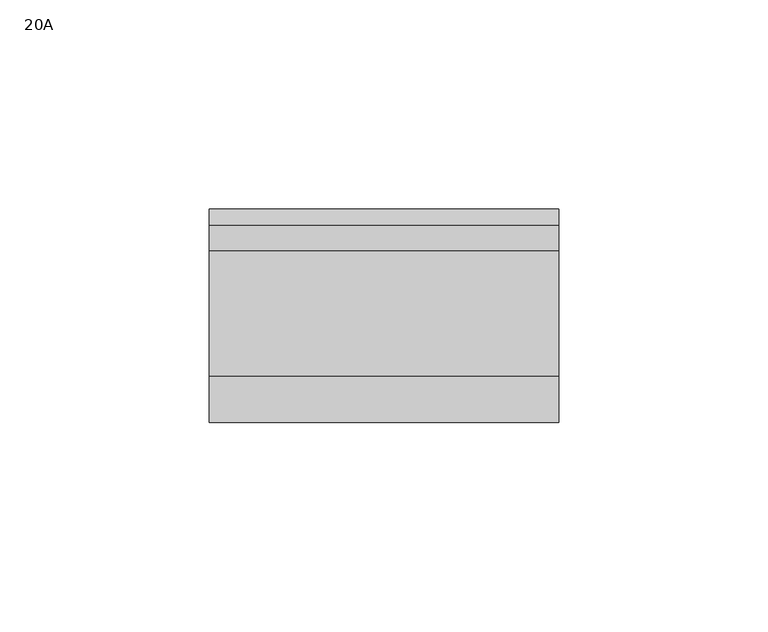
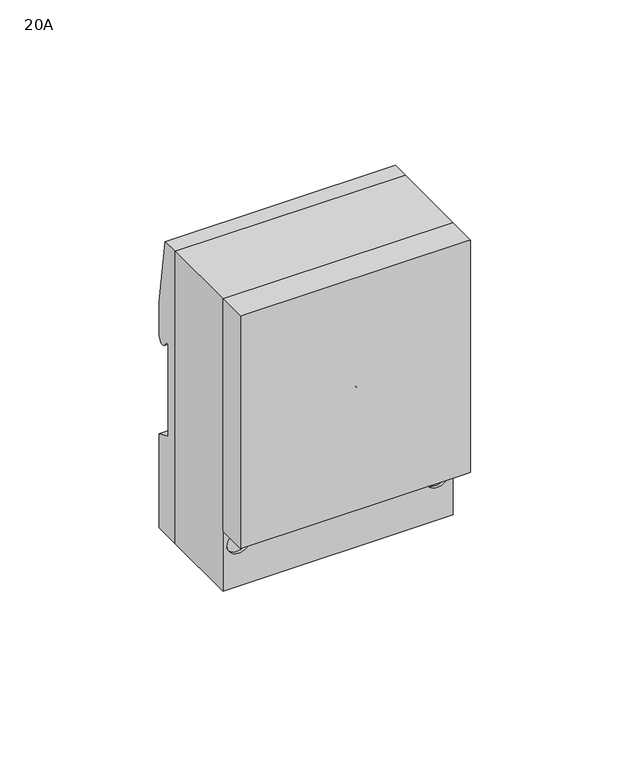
"""IFC4 building model written with IfcOpenShell, lengths in millimetres: proxy geometry, TDM_АНАЛОГОВОЕ СУТОЧНОЕ РЕЛЕ ВРЕМЕНИ СЕРИИ АР-П : 20A."""

import ifcopenshell
import ifcopenshell.guid

model = None  # the IFC model being written
_history = None  # IfcOwnerHistory: only IFC2X3 demands one
_inside = {}  # id of a spatial element -> (the spatial element, [elements in it])
_under = {}  # id of a project, library or spatial element -> (it, [spatial elements below it])
_declared = {}  # id of a project -> (the project, [libraries it declares])
_typed = {}  # id of a type object -> (the type object, [elements of that type])
_made_of = {}  # id of a material, layer set ... -> (it, [elements and type objects made of it])


def new_model(schema):
    """Start an empty IFC model of exactly this schema.

    Asked for "IFC4X3", IfcOpenShell would pick the latest addendum, in which some entities
    have other attributes; the version numbers below select the first issue.
    IFC2X3 requires an IfcOwnerHistory on every rooted entity: one is made here for all.
    """
    global model, _history
    if schema == "IFC4X3":
        model = ifcopenshell.file(schema_version=(4, 3, 0, 0))
    else:
        model = ifcopenshell.file(schema=schema)
    _inside.clear()
    _under.clear()
    _declared.clear()
    _typed.clear()
    _made_of.clear()
    _history = None
    if model.schema == "IFC2X3":
        org = make("IfcOrganization", Name="unknown")
        user = make(
            "IfcPersonAndOrganization",
            ThePerson=make("IfcPerson", FamilyName="unknown"),
            TheOrganization=org,
        )
        app = make(
            "IfcApplication",
            ApplicationDeveloper=org,
            Version="unknown",
            ApplicationFullName="unknown",
            ApplicationIdentifier="unknown",
        )
        _history = make(
            "IfcOwnerHistory",
            OwningUser=user,
            OwningApplication=app,
            ChangeAction="ADDED",
            CreationDate=0,
        )
    return model


def make(cls, **values):
    """One entity of the class cls with the attributes given. An attribute that is None is left unset."""
    return model.create_entity(
        cls, **{name: value for name, value in values.items() if value is not None}
    )


def rooted(cls, **values):
    """An entity with a GlobalId (a new one), such as an element, a storey or a relation."""
    return make(cls, GlobalId=ifcopenshell.guid.new(), OwnerHistory=_history, **values)


def si_unit(unit_type, name, prefix=None):
    """IfcSIUnit, for example si_unit("LENGTHUNIT", "METRE", prefix="MILLI")."""
    return make("IfcSIUnit", UnitType=unit_type, Prefix=prefix, Name=name)


def assignment(units):
    """IfcUnitAssignment: the units of a project."""
    return None if units is None else make("IfcUnitAssignment", Units=units)


def point(xyz):
    """IfcCartesianPoint."""
    return None if xyz is None else make("IfcCartesianPoint", Coordinates=xyz)


def direction(xyz):
    """IfcDirection."""
    return None if xyz is None else make("IfcDirection", DirectionRatios=xyz)


def frame(location, z_axis=None, x_axis=None):
    """IfcAxis2Placement3D, a coordinate frame: its origin and axes. An axis left out is left unset."""
    return make(
        "IfcAxis2Placement3D",
        Location=point(location),
        Axis=direction(z_axis),
        RefDirection=direction(x_axis),
    )


def frame_2d(location, x_axis=None):
    """IfcAxis2Placement2D, a coordinate frame in the plane: its origin and x axis."""
    return make(
        "IfcAxis2Placement2D", Location=point(location), RefDirection=direction(x_axis)
    )


def origin():
    """The frame at (0, 0, 0) with its axes left unset."""
    return frame((0.0, 0.0, 0.0))


def place(relative_to, where):
    """IfcLocalPlacement: puts the frame where relative to a parent placement (None: the world)."""
    return make(
        "IfcLocalPlacement", PlacementRelTo=relative_to, RelativePlacement=where
    )


def context(
    kind, dimensions, precision=None, world=None, true_north=None, identifier=None
):
    """IfcGeometricRepresentationContext, for example the 3D "Model" context."""
    return make(
        "IfcGeometricRepresentationContext",
        ContextIdentifier=identifier,
        ContextType=kind,
        CoordinateSpaceDimension=dimensions,
        Precision=precision,
        WorldCoordinateSystem=world,
        TrueNorth=true_north,
    )


def project(units=None, contexts=None):
    """IfcProject with its units and contexts."""
    return rooted(
        "IfcProject",
        Name="project",
        RepresentationContexts=contexts,
        UnitsInContext=assignment(units),
    )


def spatial(cls, under=None, at=None, **own):
    """A site, building, storey or space (cls), placed at a placement, below another one or the project."""
    s = rooted(cls, ObjectPlacement=at, **own)
    if under is not None:
        _under.setdefault(under.id(), (under, []))[1].append(s)
    return s


def polyline(points):
    """IfcPolyline through the points."""
    return make("IfcPolyline", Points=[point(p) for p in points])


def circle_curve(where, radius):
    """IfcCircle in the frame where."""
    return make("IfcCircle", Position=where, Radius=radius)


def trimmed(basis, trim1, trim2, sense, master):
    """IfcTrimmedCurve: the piece of a basis curve between two trims."""
    return make(
        "IfcTrimmedCurve",
        BasisCurve=basis,
        Trim1=trim1,
        Trim2=trim2,
        SenseAgreement=sense,
        MasterRepresentation=master,
    )


def segment(curve, same_sense, transition):
    """IfcCompositeCurveSegment."""
    return make(
        "IfcCompositeCurveSegment",
        Transition=transition,
        SameSense=same_sense,
        ParentCurve=curve,
    )


def composite_curve(segments, self_intersect=None):
    """IfcCompositeCurve: segments joined end to end."""
    return make("IfcCompositeCurve", Segments=segments, SelfIntersect=self_intersect)


def outline(outer, holes=None, kind="AREA"):
    """IfcArbitraryClosedProfileDef: a profile drawn as a closed curve; with holes, ...WithVoids."""
    if holes is None:
        return make("IfcArbitraryClosedProfileDef", ProfileType=kind, OuterCurve=outer)
    return make(
        "IfcArbitraryProfileDefWithVoids",
        ProfileType=kind,
        OuterCurve=outer,
        InnerCurves=holes,
    )


def extrude(swept, where, along, depth):
    """IfcExtrudedAreaSolid: the profile swept, set in the frame where, extruded along a direction by depth."""
    return make(
        "IfcExtrudedAreaSolid",
        SweptArea=swept,
        Position=where,
        ExtrudedDirection=direction(along),
        Depth=depth,
    )


def faces_of(points, faces, orient=None, outer=None):
    """IfcFace entities. A face is a list of loops; a loop is a list of indices into points, from 0.

    orient and outer hold one flag for each loop. By default every Orientation is true, the
    first loop of a face is its IfcFaceOuterBound and the others are IfcFaceBound.
    """
    made = []
    for i, loops in enumerate(faces):
        bounds = []
        for j, loop in enumerate(loops):
            is_outer = j == 0 if outer is None else outer[i][j]
            bounds.append(
                make(
                    "IfcFaceOuterBound" if is_outer else "IfcFaceBound",
                    Bound=make("IfcPolyLoop", Polygon=[points[k] for k in loop]),
                    Orientation=True if orient is None else orient[i][j],
                )
            )
        made.append(make("IfcFace", Bounds=bounds))
    return made


def faceted_brep(points, faces, orient=None, outer=None, voids=None):
    """IfcFacetedBrep: a solid bounded by flat faces; with voids (closed shells), ...WithVoids."""
    shared = [point(p) for p in points]
    hull = make("IfcClosedShell", CfsFaces=faces_of(shared, faces, orient, outer))
    if voids is None:
        return make("IfcFacetedBrep", Outer=hull)
    return make(
        "IfcFacetedBrepWithVoids",
        Outer=hull,
        Voids=[
            make(cls, CfsFaces=faces_of(shared, fs, o, b)) for cls, fs, o, b in voids
        ],
    )


def shape(context_of_items, identifier, shape_type, items):
    """IfcShapeRepresentation: the items that make up one representation, for example the "Body"."""
    return make(
        "IfcShapeRepresentation",
        ContextOfItems=context_of_items,
        RepresentationIdentifier=identifier,
        RepresentationType=shape_type,
        Items=items,
    )


def source(mapping_origin, context_of_items, identifier, shape_type, items):
    """IfcRepresentationMap: a shape defined once, which mapped items show again and again."""
    return make(
        "IfcRepresentationMap",
        MappingOrigin=mapping_origin,
        MappedRepresentation=shape(context_of_items, identifier, shape_type, items),
    )


def transform(
    local_origin,
    x_axis=None,
    y_axis=None,
    z_axis=None,
    scale=None,
    scale2=None,
    scale3=None,
    uniform=True,
):
    """IfcCartesianTransformationOperator3D, or its non-uniform kind. x_axis, y_axis, z_axis: its Axis1, 2, 3."""
    if uniform:
        return make(
            "IfcCartesianTransformationOperator3D",
            Axis1=direction(x_axis),
            Axis2=direction(y_axis),
            LocalOrigin=point(local_origin),
            Scale=scale,
            Axis3=direction(z_axis),
        )
    return make(
        "IfcCartesianTransformationOperator3DnonUniform",
        Axis1=direction(x_axis),
        Axis2=direction(y_axis),
        LocalOrigin=point(local_origin),
        Scale=scale,
        Axis3=direction(z_axis),
        Scale2=scale2,
        Scale3=scale3,
    )


def mapped(mapping_source, mapping_target):
    """IfcMappedItem: shows the shape of a source again, moved by a transform."""
    return make(
        "IfcMappedItem", MappingSource=mapping_source, MappingTarget=mapping_target
    )


def made_of(thing, what):
    """Note that an element or type object is made of a material, layer set ...; save() writes the relation."""
    if what is not None:
        _made_of.setdefault(what.id(), (what, []))[1].append(thing)
    return thing


def element(
    cls,
    number,
    at=None,
    inside=None,
    cuts=None,
    type_object=None,
    material=None,
    context=None,
    identifier="Body",
    shape_type=None,
    held_by="IfcProductDefinitionShape",
    body=None,
    shapes=None,
    **own,
):
    """One element of the class cls, such as IfcWall. Its Tag is "e" and its number.

    at: its placement. inside: the storey or other place that contains it. cuts: it is an
    opening in that element (IfcRelVoidsElement). A single representation is given by context,
    identifier, shape_type and body (its items); several are given by shapes. held_by: the class
    of the entity that holds the representations. save() writes the other relations.
    """
    e = rooted(cls, Tag="e%d" % number, ObjectPlacement=at, **own)
    if body is not None:
        shapes = [shape(context, identifier, shape_type, body)]
    if shapes is not None:
        e.Representation = make(held_by, Representations=shapes)
    if inside is not None:
        _inside.setdefault(inside.id(), (inside, []))[1].append(e)
    if cuts is not None:
        rooted(
            "IfcRelVoidsElement", RelatingBuildingElement=cuts, RelatedOpeningElement=e
        )
    if type_object is not None:
        _typed.setdefault(type_object.id(), (type_object, []))[1].append(e)
    return made_of(e, material)


def aggregate(whole, parts):
    """IfcRelAggregates: a whole, such as a stair, and the parts it consists of."""
    return rooted("IfcRelAggregates", RelatingObject=whole, RelatedObjects=parts)


def save(model, path):
    """Write the relations noted so far, then the file.

    IfcRelAggregates (storeys below a building ...), IfcRelContainedInSpatialStructure (elements
    in a storey), IfcRelDefinesByType, IfcRelAssociatesMaterial and IfcRelDeclares: one each for
    every whole, place, type object, material and project.
    """
    for whole, parts in _under.values():
        aggregate(whole, parts)
    for where, things in _inside.values():
        rooted(
            "IfcRelContainedInSpatialStructure",
            RelatedElements=things,
            RelatingStructure=where,
        )
    for kind, things in _typed.values():
        rooted("IfcRelDefinesByType", RelatedObjects=things, RelatingType=kind)
    for what, things in _made_of.values():
        rooted("IfcRelAssociatesMaterial", RelatedObjects=things, RelatingMaterial=what)
    for by, libraries in _declared.values():
        rooted("IfcRelDeclares", RelatingContext=by, RelatedDefinitions=libraries)
    model.write(path)


def plane_surface(at):
    """IfcPlane: the flat surface through the origin of the frame at, square to its z axis."""
    return make("IfcPlane", Position=at)


def cylinder_surface(at, radius):
    """IfcCylindricalSurface: all points at the distance radius from the z axis of the frame at."""
    return make("IfcCylindricalSurface", Position=at, Radius=radius)


def revolved_surface(curve, axis_point, axis_direction):
    """IfcSurfaceOfRevolution: the curve turned about the line through axis_point along axis_direction."""
    return make(
        "IfcSurfaceOfRevolution",
        SweptCurve=make("IfcArbitraryOpenProfileDef", ProfileType="CURVE", Curve=curve),
        AxisPosition=make("IfcAxis1Placement", Location=point(axis_point), Axis=direction(axis_direction)),
    )


def advanced_brep(points, edges, surfaces, faces):
    """IfcAdvancedBrep: a solid bounded by faces that lie on surfaces and meet in shared edges.

    An edge is (start, end): straight between two places in points (the first is 0);
    or (start, end, curve); or (start, end, curve, False) where it runs against its curve.
    A face is (place in surfaces, loops), or (place, loops, False) where it looks against
    its surface's normal. A loop lists edges by number (the first is 1), with a minus sign
    where the edge is run from its end to its start. The first loop is the outer one.
    """
    corners = [point(p) for p in points]
    vertices = [make("IfcVertexPoint", VertexGeometry=c) for c in corners]
    made = []
    for start, end, *more in edges:
        made.append(
            make(
                "IfcEdgeCurve",
                EdgeStart=vertices[start],
                EdgeEnd=vertices[end],
                EdgeGeometry=more[0] if more else make("IfcPolyline", Points=[corners[start], corners[end]]),
                SameSense=more[1] if len(more) > 1 else True,
            )
        )
    hull = []
    for where, loops, *sense in faces:
        bounds = []
        for j, loop in enumerate(loops):
            ring = [make("IfcOrientedEdge", EdgeElement=made[abs(k) - 1], Orientation=k > 0) for k in loop]
            bounds.append(
                make(
                    "IfcFaceOuterBound" if j == 0 else "IfcFaceBound",
                    Bound=make("IfcEdgeLoop", EdgeList=ring),
                    Orientation=True,
                )
            )
        hull.append(make("IfcAdvancedFace", Bounds=bounds, FaceSurface=surfaces[where], SameSense=sense[0] if sense else True))
    return make("IfcAdvancedBrep", Outer=make("IfcClosedShell", CfsFaces=hull))


def proxy_20a_6020814e(model_context):
    return source(origin(), model_context, "Body", "SolidModel", [
        extrude(outline(composite_curve([segment(trimmed(circle_curve(frame_2d((45.294707, 0.0)), 4.2), [point((45.294707, -4.2))], [point((45.294707, 4.2))], False, "CARTESIAN"), True, "CONTINUOUS"), segment(trimmed(circle_curve(frame_2d((45.294707, 0.0)), 4.2), [point((45.294707, 4.2))], [point((45.294707, -4.2))], False, "CARTESIAN"), True, "CONTINUOUS")], self_intersect=False)), frame((0.0, -1.3760055, 0.0), z_axis=(0.0, 1.0, 0.0), x_axis=(0.0, 0.0, 1.0)), (0.0, 0.0, 1.0), 1.3760055),
        extrude(outline(composite_curve([segment(trimmed(circle_curve(frame_2d((-39.205293, 36.0)), 4.2), [point((-39.205293, 31.8))], [point((-39.205293, 40.2))], False, "CARTESIAN"), True, "CONTINUOUS"), segment(trimmed(circle_curve(frame_2d((-39.205293, 36.0)), 4.2), [point((-39.205293, 40.2))], [point((-39.205293, 31.8))], False, "CARTESIAN"), True, "CONTINUOUS")], self_intersect=False)), frame((0.0, -1.3760055, 0.0), z_axis=(0.0, 1.0, 0.0), x_axis=(0.0, 0.0, 1.0)), (0.0, 0.0, 1.0), 1.3760055),
        extrude(outline(composite_curve([segment(trimmed(circle_curve(frame_2d((-39.205293, -36.0)), 4.2), [point((-39.205293, -31.8))], [point((-39.205293, -40.2))], False, "CARTESIAN"), True, "CONTINUOUS"), segment(trimmed(circle_curve(frame_2d((-39.205293, -36.0)), 4.2), [point((-39.205293, -40.2))], [point((-39.205293, -31.8))], False, "CARTESIAN"), True, "CONTINUOUS")], self_intersect=False)), frame((0.0, -1.3760055, 0.0), z_axis=(0.0, 1.0, 0.0), x_axis=(0.0, 0.0, 1.0)), (0.0, 0.0, 1.0), 1.3760055),
        faceted_brep([(41.75, -13.5, -33.05), (41.75, -2.5, -33.05), (41.75, -2.5, 56.0), (41.75, -13.5, 56.0), (-41.75, -13.5, -33.05), (-41.75, -13.5, 56.0), (-41.75, -2.5, 56.0), (-41.75, -2.5, -33.05), (40.75, -13.5, -33.05), (-40.75, -13.5, -33.05), (-40.75, -2.5, -32.25), (40.75, -2.5, -32.25), (40.75, -2.5, 55.1050155), (-40.75, -2.5, 55.1050155), (-40.75, -12.8758752, -32.25), (40.75, -12.8758752, -32.25), (-40.75, -12.8758752, 55.1050155), (40.75, -12.8758752, 55.1050155), (40.75, -13.5, 56.0), (-40.75, -13.5, 56.0)], [[[0, 1, 2, 3]], [[4, 5, 6, 7]], [[7, 1, 0, 8, 9, 4]], [[2, 1, 7, 6], [10, 11, 12, 13]], [[10, 14, 15, 11]], [[14, 16, 17, 15]], [[0, 3, 18, 19, 5, 4, 9, 8]], [[10, 13, 16, 14]], [[12, 11, 15, 17]], [[16, 13, 12, 17]], [[3, 2, 6, 5, 19, 18]]]),
        advanced_brep(
        [(0.0, -2.5, -11.0442857), (0.0, -2.5, 28.9557143), (0.0, -2.5, 8.9557143), (0.0, -7.6675177, -11.0442857), (0.0, -7.6675177, 28.9557143), (0.0, -6.908117, -7.9388031), (0.0, -6.908117, 25.8502318), (0.0, -6.908117, -3.705413), (0.0, -6.908117, 21.6168417), (0.0, -5.8177061, -3.705413), (0.0, -5.8177061, 21.6168417), (0.0, -6.9630208, 5.6224266), (0.0, -6.9630208, 12.289002), (0.0, -9.1042676, 5.6224266), (0.0, -9.1042676, 12.289002), (0.0, -9.1042676, 8.9557143)],
        [
            (0, 1, circle_curve(frame((0.0, -2.5, 8.9557143), z_axis=(0.0, 1.0, 0.0), x_axis=(0.0, 0.0, 1.0)), 20.0)),
            (1, 2),
            (2, 0),
            (1, 0, circle_curve(frame((0.0, -2.5, 8.9557143), z_axis=(0.0, 1.0, 0.0), x_axis=(0.0, 0.0, 1.0)), 20.0)),
            (3, 4, circle_curve(frame((0.0, -7.6675177, 8.9557143), z_axis=(0.0, 1.0, 0.0), x_axis=(0.0, 0.0, 1.0)), 20.0)),
            (4, 1),
            (0, 3),
            (4, 3, circle_curve(frame((0.0, -7.6675177, 8.9557143), z_axis=(0.0, 1.0, 0.0), x_axis=(0.0, 0.0, 1.0)), 20.0)),
            (5, 6, circle_curve(frame((0.0, -6.908117, 8.9557143), z_axis=(0.0, 1.0, 0.0), x_axis=(0.0, 0.0, 1.0)), 16.8945174)),
            (6, 4),
            (3, 5),
            (6, 5, circle_curve(frame((0.0, -6.908117, 8.9557143), z_axis=(0.0, 1.0, 0.0), x_axis=(0.0, 0.0, 1.0)), 16.8945174)),
            (7, 8, circle_curve(frame((0.0, -6.908117, 8.9557143), z_axis=(0.0, 1.0, 0.0), x_axis=(0.0, 0.0, 1.0)), 12.6611273)),
            (8, 6),
            (5, 7),
            (8, 7, circle_curve(frame((0.0, -6.908117, 8.9557143), z_axis=(0.0, 1.0, 0.0), x_axis=(0.0, 0.0, 1.0)), 12.6611273)),
            (9, 10, circle_curve(frame((0.0, -5.8177061, 8.9557143), z_axis=(0.0, 1.0, 0.0), x_axis=(0.0, 0.0, 1.0)), 12.6611273)),
            (10, 8),
            (7, 9),
            (10, 9, circle_curve(frame((0.0, -5.8177061, 8.9557143), z_axis=(0.0, 1.0, 0.0), x_axis=(0.0, 0.0, 1.0)), 12.6611273)),
            (11, 12, circle_curve(frame((0.0, -6.9630208, 8.9557143), z_axis=(0.0, 1.0, 0.0), x_axis=(0.0, 0.0, 1.0)), 3.3332877)),
            (12, 10),
            (9, 11),
            (12, 11, circle_curve(frame((0.0, -6.9630208, 8.9557143), z_axis=(0.0, 1.0, 0.0), x_axis=(0.0, 0.0, 1.0)), 3.3332877)),
            (13, 14, circle_curve(frame((0.0, -9.1042676, 8.9557143), z_axis=(0.0, 1.0, 0.0), x_axis=(0.0, 0.0, 1.0)), 3.3332877)),
            (14, 12),
            (11, 13),
            (14, 13, circle_curve(frame((0.0, -9.1042676, 8.9557143), z_axis=(0.0, 1.0, 0.0), x_axis=(0.0, 0.0, 1.0)), 3.3332877)),
            (15, 14),
            (13, 15),
        ],
        [
            plane_surface(frame((0.0, -2.5, 8.9557143), z_axis=(0.0, 1.0, 0.0), x_axis=(0.0, 0.0, 1.0))),
            cylinder_surface(frame((0.0, -4.4923514, 8.9557143), z_axis=(0.0, -1.0, 0.0), x_axis=(0.0, 0.0, 1.0)), 20.0),
            revolved_surface(polyline([(0.0, -7.6675177, 28.9557143), (0.0, -6.908117, 25.8502318)]), (0.0, -4.4923514, 8.9557143), (0.0, -1.0, 0.0)),
            plane_surface(frame((0.0, -6.908117, 8.9557143), z_axis=(0.0, -1.0, 0.0), x_axis=(0.0, 0.0, 1.0))),
            revolved_surface(polyline([(0.0, -6.908117, 21.6168416), (0.0, -5.8177061, 21.6168416)]), (0.0, -4.4923514, 8.9557143), (0.0, -1.0, 0.0)),
            revolved_surface(polyline([(0.0, -5.8177061, 21.6168417), (0.0, -6.9630208, 12.289002)]), (0.0, -4.4923514, 8.9557143), (0.0, -1.0, 0.0)),
            cylinder_surface(frame((0.0, -4.4923514, 8.9557143), z_axis=(0.0, -1.0, 0.0), x_axis=(0.0, 0.0, 1.0)), 3.3332877),
            plane_surface(frame((0.0, -9.1042676, 8.9557143), z_axis=(0.0, -1.0, 0.0), x_axis=(0.0, 0.0, 1.0))),
        ],
        [
            (0, [[1, 2, 3]]),
            (0, [[4, -3, -2]]),
            (1, [[5, 6, -1, 7]]),
            (1, [[8, -7, -4, -6]]),
            (2, [[9, 10, -5, 11]]),
            (2, [[12, -11, -8, -10]]),
            (3, [[13, 14, -9, 15]]),
            (3, [[16, -15, -12, -14]]),
            (4, [[17, 18, -13, 19]]),
            (4, [[20, -19, -16, -18]]),
            (5, [[21, 22, -17, 23]]),
            (5, [[24, -23, -20, -22]]),
            (6, [[25, 26, -21, 27]]),
            (6, [[28, -27, -24, -26]]),
            (7, [[29, -25, 30]]),
            (7, [[-30, -28, -29]]),
        ],
    ),
        advanced_brep(
        [(-41.75, -2.5, 56.0), (-41.75, 27.5, 56.0), (-41.75, 27.5, -56.0), (-41.75, -2.5, -56.0), (41.75, -2.5, 56.0), (41.75, -2.5, -56.0), (41.75, 27.5, -56.0), (41.75, 27.5, 56.0), (-4.2, 0.6675654, 45.294707), (4.2, 0.6675654, 45.294707), (-40.2, 0.6675654, -39.205293), (-31.8, 0.6675654, -39.205293), (40.2, 0.6675654, -39.205293), (31.8, 0.6675654, -39.205293), (4.2, -2.5, 45.294707), (-4.2, -2.5, 45.294707), (-31.8, -2.5, -39.205293), (-40.2, -2.5, -39.205293), (31.8, -2.5, -39.205293), (40.2, -2.5, -39.205293)],
        [
            (0, 1),
            (1, 2),
            (2, 3),
            (3, 0),
            (4, 5),
            (5, 6),
            (6, 7),
            (7, 4),
            (8, 9, circle_curve(frame((0.0, 0.6675654, 45.294707), z_axis=(0.0, -1.0, 0.0), x_axis=(1.0, 0.0, 0.0)), 4.2)),
            (9, 8, circle_curve(frame((0.0, 0.6675654, 45.294707), z_axis=(0.0, -1.0, 0.0), x_axis=(1.0, 0.0, 0.0)), 4.2)),
            (10, 11, circle_curve(frame((-36.0, 0.6675654, -39.205293), z_axis=(0.0, -1.0, 0.0), x_axis=(1.0, 0.0, 0.0)), 4.2)),
            (11, 10, circle_curve(frame((-36.0, 0.6675654, -39.205293), z_axis=(0.0, -1.0, 0.0), x_axis=(1.0, 0.0, 0.0)), 4.2)),
            (12, 13, circle_curve(frame((36.0, 0.6675654, -39.205293), z_axis=(0.0, -1.0, 0.0), x_axis=(-1.0, 0.0, 0.0)), 4.2)),
            (13, 12, circle_curve(frame((36.0, 0.6675654, -39.205293), z_axis=(0.0, -1.0, 0.0), x_axis=(-1.0, 0.0, 0.0)), 4.2)),
            (0, 4),
            (7, 1),
            (6, 2),
            (5, 3),
            (14, 15, circle_curve(frame((0.0, -2.5, 45.294707), z_axis=(0.0, 1.0, 0.0), x_axis=(1.0, 0.0, 0.0)), 4.2)),
            (15, 14, circle_curve(frame((0.0, -2.5, 45.294707), z_axis=(0.0, 1.0, 0.0), x_axis=(1.0, 0.0, 0.0)), 4.2)),
            (16, 17, circle_curve(frame((-36.0, -2.5, -39.205293), z_axis=(0.0, 1.0, 0.0), x_axis=(1.0, 0.0, 0.0)), 4.2)),
            (17, 16, circle_curve(frame((-36.0, -2.5, -39.205293), z_axis=(0.0, 1.0, 0.0), x_axis=(1.0, 0.0, 0.0)), 4.2)),
            (18, 19, circle_curve(frame((36.0, -2.5, -39.205293), z_axis=(0.0, 1.0, 0.0), x_axis=(-1.0, 0.0, 0.0)), 4.2)),
            (19, 18, circle_curve(frame((36.0, -2.5, -39.205293), z_axis=(0.0, 1.0, 0.0), x_axis=(-1.0, 0.0, 0.0)), 4.2)),
            (8, 15),
            (14, 9),
            (10, 17),
            (16, 11),
            (12, 19),
            (18, 13),
        ],
        [
            plane_surface(frame((-41.75, 37.5, 56.0), z_axis=(-1.0, 0.0, 0.0), x_axis=(0.0, 1.0, 0.0))),
            plane_surface(frame((41.75, 37.5, 56.0), z_axis=(1.0, 0.0, 0.0), x_axis=(0.0, -1.0, 0.0))),
            plane_surface(frame((4.2, 0.6675654, 45.294707), z_axis=(0.0, -1.0, 0.0), x_axis=(0.0, 0.0, -1.0))),
            plane_surface(frame((-41.75, -2.5, 56.0), z_axis=(0.0, 0.0, 1.0), x_axis=(1.0, 0.0, 0.0))),
            plane_surface(frame((-41.75, 27.5, 56.0), z_axis=(0.0, 1.0, 0.0), x_axis=(1.0, 0.0, 0.0))),
            plane_surface(frame((-41.75, 27.5, -56.0), z_axis=(0.0, 0.0, -1.0), x_axis=(1.0, 0.0, 0.0))),
            plane_surface(frame((-41.75, -2.5, -56.0), z_axis=(0.0, -1.0, 0.0), x_axis=(1.0, 0.0, 0.0))),
            revolved_surface(polyline([(4.2, -2.5, 45.294707), (4.2, 0.6675654, 45.294707)]), (0.0, 0.6675654, 45.294707), (0.0, -1.0, 0.0)),
            revolved_surface(polyline([(-31.8, -2.5, -39.205293), (-31.8, 0.6675654, -39.205293)]), (-36.0, 0.0, -39.205293), (0.0, -1.0, 0.0)),
            revolved_surface(polyline([(31.8, -2.5, -39.205293), (31.8, 0.6675654, -39.205293)]), (36.0, 0.0, -39.205293), (0.0, -1.0, 0.0)),
        ],
        [
            (0, [[1, 2, 3, 4]]),
            (1, [[5, 6, 7, 8]]),
            (2, [[9, 10]]),
            (2, [[11, 12]]),
            (2, [[13, 14]]),
            (3, [[-1, 15, -8, 16]]),
            (4, [[-2, -16, -7, 17]]),
            (5, [[-3, -17, -6, 18]]),
            (6, [[-4, -18, -5, -15], [19, 20], [21, 22], [23, 24]]),
            (7, [[-9, 25, -19, 26]]),
            (7, [[-10, -26, -20, -25]]),
            (8, [[-11, 27, -21, 28]]),
            (8, [[-12, -28, -22, -27]]),
            (9, [[-13, 29, -23, 30]]),
            (9, [[-14, -30, -24, -29]]),
        ],
    ),
        extrude(outline(composite_curve([segment(trimmed(circle_curve(frame_2d((35.3909801, 14.1836781)), 2.6657369), [point((34.02753, 16.4743455))], [point((36.5457046, 11.7810202))], True, "CARTESIAN"), True, "CONTINUOUS"), segment(trimmed(circle_curve(frame_2d((8.9557143, 0.0)), 30.0), [point((36.5457046, 11.7810202))], [point((34.02753, 16.4743455))], False, "CARTESIAN"), True, "CONTINUOUS")], self_intersect=False), holes=[composite_curve([segment(trimmed(circle_curve(frame_2d((8.9557143, 0.0)), 20.0), [point((8.9557143, -20.0))], [point((8.9557143, 20.0))], True, "CARTESIAN"), True, "CONTINUOUS"), segment(trimmed(circle_curve(frame_2d((8.9557143, 0.0)), 20.0), [point((8.9557143, 20.0))], [point((8.9557143, -20.0))], True, "CARTESIAN"), True, "CONTINUOUS")], self_intersect=False)]), frame((0.0, -7.6675177, 0.0), z_axis=(0.0, 1.0, 0.0), x_axis=(0.0, 0.0, 1.0)), (0.0, 0.0, 1.0), 5.1675177),
        extrude(outline(polyline([(31.7632568, 17.7057143), (31.7632568, -17.2942857), (37.5, -19.969373), (37.5, -56.0), (27.5, -56.0), (27.5, 56.0), (33.7177015, 56.0), (37.5, 30.395891), (37.5, 17.7057143), (36.2583232, 15.5550671), (34.6361075, 15.5550671), (32.8315001, 17.7057143), (31.7632568, 17.7057143)])), frame((-41.75, 0.0, 0.0), z_axis=(1.0, 0.0, 0.0), x_axis=(0.0, 1.0, 0.0)), (0.0, 0.0, 1.0), 83.5),
        extrude(outline(polyline([(37.8586089, -2.5), (37.8586089, -4.8719495), (32.6181278, -4.8719495), (32.6181278, -2.5), (37.8586089, -2.5)])), frame((0.0, 0.0, -26.195832), z_axis=(0.0, 0.0, 1.0), x_axis=(1.0, 0.0, 0.0)), (0.0, 0.0, 1.0), 12.445832),
        extrude(outline(composite_curve([segment(trimmed(circle_curve(frame_2d((45.294707, 0.0)), 4.2), [point((45.294707, -4.2))], [point((45.294707, 4.2))], False, "CARTESIAN"), True, "CONTINUOUS"), segment(trimmed(circle_curve(frame_2d((45.294707, 0.0)), 4.2), [point((45.294707, 4.2))], [point((45.294707, -4.2))], False, "CARTESIAN"), True, "CONTINUOUS")], self_intersect=False)), frame((0.0, -1.3760055, 0.0), z_axis=(0.0, 1.0, 0.0), x_axis=(0.0, 0.0, 1.0)), (0.0, 0.0, 1.0), 1.3760055),
        extrude(outline(composite_curve([segment(trimmed(circle_curve(frame_2d((-39.205293, 36.0)), 4.2), [point((-39.205293, 31.8))], [point((-39.205293, 40.2))], False, "CARTESIAN"), True, "CONTINUOUS"), segment(trimmed(circle_curve(frame_2d((-39.205293, 36.0)), 4.2), [point((-39.205293, 40.2))], [point((-39.205293, 31.8))], False, "CARTESIAN"), True, "CONTINUOUS")], self_intersect=False)), frame((0.0, -1.3760055, 0.0), z_axis=(0.0, 1.0, 0.0), x_axis=(0.0, 0.0, 1.0)), (0.0, 0.0, 1.0), 1.3760055),
        extrude(outline(composite_curve([segment(trimmed(circle_curve(frame_2d((-39.205293, -36.0)), 4.2), [point((-39.205293, -31.8))], [point((-39.205293, -40.2))], False, "CARTESIAN"), True, "CONTINUOUS"), segment(trimmed(circle_curve(frame_2d((-39.205293, -36.0)), 4.2), [point((-39.205293, -40.2))], [point((-39.205293, -31.8))], False, "CARTESIAN"), True, "CONTINUOUS")], self_intersect=False)), frame((0.0, -1.3760055, 0.0), z_axis=(0.0, 1.0, 0.0), x_axis=(0.0, 0.0, 1.0)), (0.0, 0.0, 1.0), 1.3760055),
        faceted_brep([(41.75, -13.5, -33.05), (41.75, -2.5, -33.05), (41.75, -2.5, 56.0), (41.75, -13.5, 56.0), (-41.75, -13.5, -33.05), (-41.75, -13.5, 56.0), (-41.75, -2.5, 56.0), (-41.75, -2.5, -33.05), (40.75, -13.5, -33.05), (-40.75, -13.5, -33.05), (-40.75, -2.5, -32.25), (40.75, -2.5, -32.25), (40.75, -2.5, 55.1050155), (-40.75, -2.5, 55.1050155), (-40.75, -12.8758752, -32.25), (40.75, -12.8758752, -32.25), (-40.75, -12.8758752, 55.1050155), (40.75, -12.8758752, 55.1050155), (40.75, -13.5, 56.0), (-40.75, -13.5, 56.0)], [[[0, 1, 2, 3]], [[4, 5, 6, 7]], [[7, 1, 0, 8, 9, 4]], [[2, 1, 7, 6], [10, 11, 12, 13]], [[10, 14, 15, 11]], [[14, 16, 17, 15]], [[0, 3, 18, 19, 5, 4, 9, 8]], [[10, 13, 16, 14]], [[12, 11, 15, 17]], [[16, 13, 12, 17]], [[3, 2, 6, 5, 19, 18]]]),
        advanced_brep(
        [(0.0, -2.5, -11.0442857), (0.0, -2.5, 28.9557143), (0.0, -2.5, 8.9557143), (0.0, -7.6675177, -11.0442857), (0.0, -7.6675177, 28.9557143), (0.0, -6.908117, -7.9388031), (0.0, -6.908117, 25.8502318), (0.0, -6.908117, -3.705413), (0.0, -6.908117, 21.6168417), (0.0, -5.8177061, -3.705413), (0.0, -5.8177061, 21.6168417), (0.0, -6.9630208, 5.6224266), (0.0, -6.9630208, 12.289002), (0.0, -9.1042676, 5.6224266), (0.0, -9.1042676, 12.289002), (0.0, -9.1042676, 8.9557143)],
        [
            (0, 1, circle_curve(frame((0.0, -2.5, 8.9557143), z_axis=(0.0, 1.0, 0.0), x_axis=(0.0, 0.0, 1.0)), 20.0)),
            (1, 2),
            (2, 0),
            (1, 0, circle_curve(frame((0.0, -2.5, 8.9557143), z_axis=(0.0, 1.0, 0.0), x_axis=(0.0, 0.0, 1.0)), 20.0)),
            (3, 4, circle_curve(frame((0.0, -7.6675177, 8.9557143), z_axis=(0.0, 1.0, 0.0), x_axis=(0.0, 0.0, 1.0)), 20.0)),
            (4, 1),
            (0, 3),
            (4, 3, circle_curve(frame((0.0, -7.6675177, 8.9557143), z_axis=(0.0, 1.0, 0.0), x_axis=(0.0, 0.0, 1.0)), 20.0)),
            (5, 6, circle_curve(frame((0.0, -6.908117, 8.9557143), z_axis=(0.0, 1.0, 0.0), x_axis=(0.0, 0.0, 1.0)), 16.8945174)),
            (6, 4),
            (3, 5),
            (6, 5, circle_curve(frame((0.0, -6.908117, 8.9557143), z_axis=(0.0, 1.0, 0.0), x_axis=(0.0, 0.0, 1.0)), 16.8945174)),
            (7, 8, circle_curve(frame((0.0, -6.908117, 8.9557143), z_axis=(0.0, 1.0, 0.0), x_axis=(0.0, 0.0, 1.0)), 12.6611273)),
            (8, 6),
            (5, 7),
            (8, 7, circle_curve(frame((0.0, -6.908117, 8.9557143), z_axis=(0.0, 1.0, 0.0), x_axis=(0.0, 0.0, 1.0)), 12.6611273)),
            (9, 10, circle_curve(frame((0.0, -5.8177061, 8.9557143), z_axis=(0.0, 1.0, 0.0), x_axis=(0.0, 0.0, 1.0)), 12.6611273)),
            (10, 8),
            (7, 9),
            (10, 9, circle_curve(frame((0.0, -5.8177061, 8.9557143), z_axis=(0.0, 1.0, 0.0), x_axis=(0.0, 0.0, 1.0)), 12.6611273)),
            (11, 12, circle_curve(frame((0.0, -6.9630208, 8.9557143), z_axis=(0.0, 1.0, 0.0), x_axis=(0.0, 0.0, 1.0)), 3.3332877)),
            (12, 10),
            (9, 11),
            (12, 11, circle_curve(frame((0.0, -6.9630208, 8.9557143), z_axis=(0.0, 1.0, 0.0), x_axis=(0.0, 0.0, 1.0)), 3.3332877)),
            (13, 14, circle_curve(frame((0.0, -9.1042676, 8.9557143), z_axis=(0.0, 1.0, 0.0), x_axis=(0.0, 0.0, 1.0)), 3.3332877)),
            (14, 12),
            (11, 13),
            (14, 13, circle_curve(frame((0.0, -9.1042676, 8.9557143), z_axis=(0.0, 1.0, 0.0), x_axis=(0.0, 0.0, 1.0)), 3.3332877)),
            (15, 14),
            (13, 15),
        ],
        [
            plane_surface(frame((0.0, -2.5, 8.9557143), z_axis=(0.0, 1.0, 0.0), x_axis=(0.0, 0.0, 1.0))),
            cylinder_surface(frame((0.0, -4.4923514, 8.9557143), z_axis=(0.0, -1.0, 0.0), x_axis=(0.0, 0.0, 1.0)), 20.0),
            revolved_surface(polyline([(0.0, -7.6675177, 28.9557143), (0.0, -6.908117, 25.8502318)]), (0.0, -4.4923514, 8.9557143), (0.0, -1.0, 0.0)),
            plane_surface(frame((0.0, -6.908117, 8.9557143), z_axis=(0.0, -1.0, 0.0), x_axis=(0.0, 0.0, 1.0))),
            revolved_surface(polyline([(0.0, -6.908117, 21.6168416), (0.0, -5.8177061, 21.6168416)]), (0.0, -4.4923514, 8.9557143), (0.0, -1.0, 0.0)),
            revolved_surface(polyline([(0.0, -5.8177061, 21.6168417), (0.0, -6.9630208, 12.289002)]), (0.0, -4.4923514, 8.9557143), (0.0, -1.0, 0.0)),
            cylinder_surface(frame((0.0, -4.4923514, 8.9557143), z_axis=(0.0, -1.0, 0.0), x_axis=(0.0, 0.0, 1.0)), 3.3332877),
            plane_surface(frame((0.0, -9.1042676, 8.9557143), z_axis=(0.0, -1.0, 0.0), x_axis=(0.0, 0.0, 1.0))),
        ],
        [
            (0, [[1, 2, 3]]),
            (0, [[4, -3, -2]]),
            (1, [[5, 6, -1, 7]]),
            (1, [[8, -7, -4, -6]]),
            (2, [[9, 10, -5, 11]]),
            (2, [[12, -11, -8, -10]]),
            (3, [[13, 14, -9, 15]]),
            (3, [[16, -15, -12, -14]]),
            (4, [[17, 18, -13, 19]]),
            (4, [[20, -19, -16, -18]]),
            (5, [[21, 22, -17, 23]]),
            (5, [[24, -23, -20, -22]]),
            (6, [[25, 26, -21, 27]]),
            (6, [[28, -27, -24, -26]]),
            (7, [[29, -25, 30]]),
            (7, [[-30, -28, -29]]),
        ],
    ),
        extrude(outline(composite_curve([segment(trimmed(circle_curve(frame_2d((35.3909801, 14.1836781)), 2.6657369), [point((34.02753, 16.4743455))], [point((36.5457046, 11.7810202))], True, "CARTESIAN"), True, "CONTINUOUS"), segment(trimmed(circle_curve(frame_2d((8.9557143, 0.0)), 30.0), [point((36.5457046, 11.7810202))], [point((34.02753, 16.4743455))], False, "CARTESIAN"), True, "CONTINUOUS")], self_intersect=False), holes=[composite_curve([segment(trimmed(circle_curve(frame_2d((8.9557143, 0.0)), 20.0), [point((8.9557143, -20.0))], [point((8.9557143, 20.0))], True, "CARTESIAN"), True, "CONTINUOUS"), segment(trimmed(circle_curve(frame_2d((8.9557143, 0.0)), 20.0), [point((8.9557143, 20.0))], [point((8.9557143, -20.0))], True, "CARTESIAN"), True, "CONTINUOUS")], self_intersect=False)]), frame((0.0, -7.6675177, 0.0), z_axis=(0.0, 1.0, 0.0), x_axis=(0.0, 0.0, 1.0)), (0.0, 0.0, 1.0), 5.1675177),
    ])


if __name__ == "__main__":
    model = new_model("IFC4")
    model_context = context("Model", 3, world=origin())
    ifc_project = project(units=[si_unit("LENGTHUNIT", "METRE", prefix="MILLI")], contexts=[model_context])
    site = spatial("IfcSite", under=ifc_project)
    building = spatial("IfcBuilding", under=site)
    placement = place(None, origin())
    proxy_20a_shape = proxy_20a_6020814e(model_context)
    element("IfcBuildingElementProxy", 1, Name="TDM_АНАЛОГОВОЕ СУТОЧНОЕ РЕЛЕ ВРЕМЕНИ СЕРИИ АР-П : 20A", ObjectType="TDM_АНАЛОГОВОЕ СУТОЧНОЕ РЕЛЕ ВРЕМЕНИ СЕРИИ АР-П : 20A", at=placement, inside=building, context=model_context, shape_type="MappedRepresentation", body=[
        mapped(proxy_20a_shape, transform((0.0, 0.0, 0.0), x_axis=(1.0, 0.0, 0.0), y_axis=(0.0, 1.0, 0.0), z_axis=(0.0, 0.0, 1.0))),
    ])
    save(model, "model.ifc")
